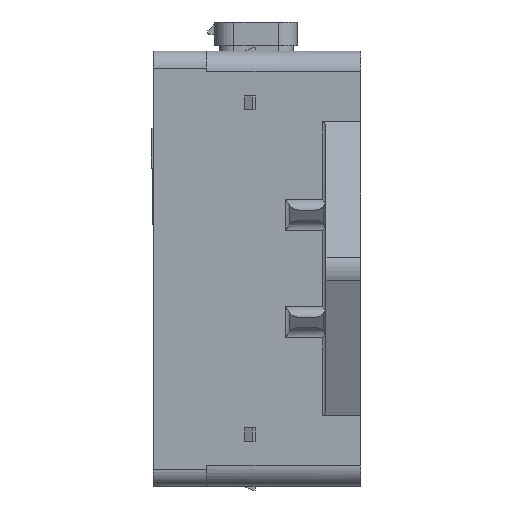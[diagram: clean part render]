
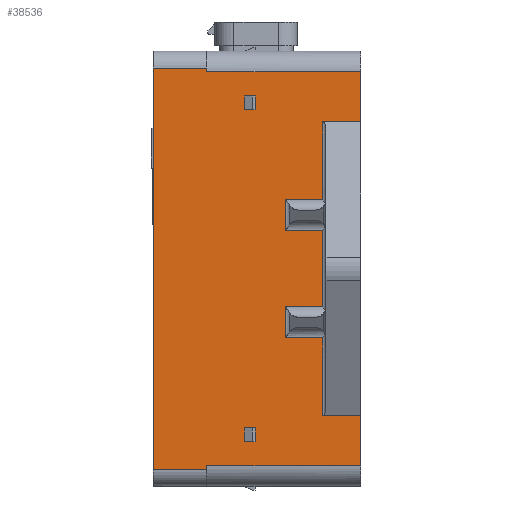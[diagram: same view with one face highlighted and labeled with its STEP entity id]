
A CAD part, left-side view. The second image highlights one B-rep face of the part: STEP entity #38536.
In plain terms, the highlighted planar face has unit normal (-1, 0, 0).
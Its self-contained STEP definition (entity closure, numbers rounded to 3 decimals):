
#86=DIRECTION('',(0.,-1.,0.));
#87=VECTOR('',#86,15.5);
#88=CARTESIAN_POINT('',(-97.,49.6,-58.001));
#89=LINE('',#88,#87);
#100=DIRECTION('',(0.,1.,0.));
#101=VECTOR('',#100,44.5);
#102=CARTESIAN_POINT('',(-97.,-10.4,-57.006));
#103=LINE('',#102,#101);
#104=DIRECTION('',(0.,0.,-1.));
#105=VECTOR('',#104,1.);
#106=CARTESIAN_POINT('',(-97.,34.1,-57.001));
#107=LINE('',#106,#105);
#108=DIRECTION('',(0.,0.,1.));
#109=VECTOR('',#108,116.003);
#110=CARTESIAN_POINT('',(-97.,49.6,-58.001));
#111=LINE('',#110,#109);
#112=DIRECTION('',(0.,0.,-1.));
#113=VECTOR('',#112,1.);
#114=CARTESIAN_POINT('',(-97.,34.1,58.001));
#115=LINE('',#114,#113);
#116=DIRECTION('',(0.,-1.,0.));
#117=VECTOR('',#116,44.5);
#118=CARTESIAN_POINT('',(-97.,34.1,57.001));
#119=LINE('',#118,#117);
#120=DIRECTION('',(0.,0.,-1.));
#121=VECTOR('',#120,4.);
#122=CARTESIAN_POINT('',(-97.,23.1,-46.));
#123=LINE('',#122,#121);
#124=DIRECTION('',(0.,-1.,0.));
#125=VECTOR('',#124,3.);
#126=CARTESIAN_POINT('',(-97.,23.1,-50.));
#127=LINE('',#126,#125);
#128=DIRECTION('',(0.,0.,1.));
#129=VECTOR('',#128,4.);
#130=CARTESIAN_POINT('',(-97.,20.1,-50.));
#131=LINE('',#130,#129);
#132=DIRECTION('',(0.,1.,0.));
#133=VECTOR('',#132,3.);
#134=CARTESIAN_POINT('',(-97.,20.1,-46.));
#135=LINE('',#134,#133);
#136=DIRECTION('',(0.,0.,-1.));
#137=VECTOR('',#136,4.);
#138=CARTESIAN_POINT('',(-97.,23.1,50.));
#139=LINE('',#138,#137);
#140=DIRECTION('',(0.,-1.,0.));
#141=VECTOR('',#140,3.);
#142=CARTESIAN_POINT('',(-97.,23.1,46.));
#143=LINE('',#142,#141);
#144=DIRECTION('',(0.,0.,1.));
#145=VECTOR('',#144,4.);
#146=CARTESIAN_POINT('',(-97.,20.1,46.));
#147=LINE('',#146,#145);
#148=DIRECTION('',(0.,1.,0.));
#149=VECTOR('',#148,3.);
#150=CARTESIAN_POINT('',(-97.,20.1,50.));
#151=LINE('',#150,#149);
#152=DIRECTION('',(0.,1.,0.));
#153=VECTOR('',#152,15.5);
#154=CARTESIAN_POINT('',(-97.,34.1,58.001));
#155=LINE('',#154,#153);
#572=DIRECTION('',(0.,0.,1.));
#573=VECTOR('',#572,14.506);
#574=CARTESIAN_POINT('',(-97.,-10.4,42.5));
#575=LINE('',#574,#573);
#652=CARTESIAN_POINT('',(-97.,-10.4,-57.006));
#654=DIRECTION('',(0.,0.,1.));
#655=VECTOR('',#654,14.506);
#656=CARTESIAN_POINT('',(-97.,-10.4,-57.006));
#657=LINE('',#656,#655);
#1198=DIRECTION('',(0.,1.,0.));
#1199=VECTOR('',#1198,11.);
#1200=CARTESIAN_POINT('',(-97.,-10.4,-42.5));
#1201=LINE('',#1200,#1199);
#1206=DIRECTION('',(0.,0.,-1.));
#1207=VECTOR('',#1206,22.5);
#1208=CARTESIAN_POINT('',(-97.,0.6,
-20.));
#1209=LINE('',#1208,#1207);
#1226=DIRECTION('',(0.,-1.,0.));
#1227=VECTOR('',#1226,10.828);
#1228=CARTESIAN_POINT('',(-97.,11.428,-20.));
#1229=LINE('',#1228,#1227);
#1230=CARTESIAN_POINT('',(-97.,11.428,-20.));
#1301=DIRECTION('',(0.,0.,-1.));
#1302=VECTOR('',#1301,9.);
#1303=CARTESIAN_POINT('',(-97.,11.428,-11.));
#1304=LINE('',#1303,#1302);
#1305=CARTESIAN_POINT('',(-97.,11.428,-11.));
#1329=DIRECTION('',(0.,1.,0.));
#1330=VECTOR('',#1329,10.828);
#1331=CARTESIAN_POINT('',(-97.,0.6,
-11.));
#1332=LINE('',#1331,#1330);
#1340=DIRECTION('',(0.,0.,-1.));
#1341=VECTOR('',#1340,22.);
#1342=CARTESIAN_POINT('',(-97.,0.6,
11.));
#1343=LINE('',#1342,#1341);
#1362=DIRECTION('',(0.,-1.,0.));
#1363=VECTOR('',#1362,10.828);
#1364=CARTESIAN_POINT('',(-97.,11.428,11.));
#1365=LINE('',#1364,#1363);
#1366=CARTESIAN_POINT('',(-97.,11.428,11.));
#1430=DIRECTION('',(0.,0.,-1.));
#1431=VECTOR('',#1430,9.);
#1432=CARTESIAN_POINT('',(-97.,11.428,20.));
#1433=LINE('',#1432,#1431);
#1434=CARTESIAN_POINT('',(-97.,11.428,20.));
#1458=DIRECTION('',(0.,1.,0.));
#1459=VECTOR('',#1458,10.828);
#1460=CARTESIAN_POINT('',(-97.,0.6,
20.));
#1461=LINE('',#1460,#1459);
#1477=DIRECTION('',(0.,0.,-1.));
#1478=VECTOR('',#1477,22.5);
#1479=CARTESIAN_POINT('',(-97.,0.6,
42.5));
#1480=LINE('',#1479,#1478);
#1504=DIRECTION('',(0.,-1.,0.));
#1505=VECTOR('',#1504,11.);
#1506=CARTESIAN_POINT('',(-97.,0.6,
42.5));
#1507=LINE('',#1506,#1505);
#33189=VERTEX_POINT('',#1230);
#33191=VERTEX_POINT('',#1305);
#33197=VERTEX_POINT('',#1366);
#33199=VERTEX_POINT('',#1434);
#35689=CARTESIAN_POINT('',(-97.,34.1,58.004));
#35691=VERTEX_POINT('',#35689);
#35695=CARTESIAN_POINT('',(-97.,49.6,58.001));
#35696=VERTEX_POINT('',#35695);
#35698=CARTESIAN_POINT('',(-97.,34.1,57.004));
#35700=VERTEX_POINT('',#35698);
#35701=CARTESIAN_POINT('',(-97.,34.1,-57.004));
#35703=VERTEX_POINT('',#35701);
#35705=CARTESIAN_POINT('',(-97.,34.1,-58.001));
#35706=VERTEX_POINT('',#35705);
#35717=CARTESIAN_POINT('',(-97.,49.6,-58.001));
#35718=VERTEX_POINT('',#35717);
#38045=CARTESIAN_POINT('',(-97.,23.1,46.));
#38046=VERTEX_POINT('',#38045);
#38047=CARTESIAN_POINT('',(-97.,20.1,46.));
#38048=VERTEX_POINT('',#38047);
#38049=CARTESIAN_POINT('',(-97.,20.1,50.));
#38050=VERTEX_POINT('',#38049);
#38053=CARTESIAN_POINT('',(-97.,23.1,50.));
#38054=VERTEX_POINT('',#38053);
#38057=CARTESIAN_POINT('',(-97.,20.1,-50.));
#38058=CARTESIAN_POINT('',(-97.,20.1,-46.));
#38059=VERTEX_POINT('',#38057);
#38060=VERTEX_POINT('',#38058);
#38065=CARTESIAN_POINT('',(-97.,23.1,-46.));
#38066=VERTEX_POINT('',#38065);
#38071=CARTESIAN_POINT('',(-97.,23.1,-50.));
#38072=VERTEX_POINT('',#38071);
#38073=CARTESIAN_POINT('',(-97.,0.6,
-20.));
#38074=VERTEX_POINT('',#38073);
#38083=CARTESIAN_POINT('',(-97.,0.6,
-11.));
#38084=VERTEX_POINT('',#38083);
#38085=CARTESIAN_POINT('',(-97.,0.6,
11.));
#38086=VERTEX_POINT('',#38085);
#38093=CARTESIAN_POINT('',(-97.,0.6,
20.));
#38094=VERTEX_POINT('',#38093);
#38096=CARTESIAN_POINT('',(-97.,0.6,
42.5));
#38097=VERTEX_POINT('',#38096);
#38111=CARTESIAN_POINT('',(-97.,0.6,
-42.5));
#38112=VERTEX_POINT('',#38111);
#38239=VERTEX_POINT('',#652);
#38293=CARTESIAN_POINT('',(-97.,-10.4,57.006));
#38294=VERTEX_POINT('',#38293);
#38380=CARTESIAN_POINT('',(-97.,-10.4,-42.5));
#38381=VERTEX_POINT('',#38380);
#38382=CARTESIAN_POINT('',(-97.,-10.4,42.5));
#38383=VERTEX_POINT('',#38382);
#38473=CARTESIAN_POINT('',(-97.,19.6,0.));
#38474=DIRECTION('',(1.,0.,0.));
#38475=DIRECTION('',(0.,0.,1.));
#38476=AXIS2_PLACEMENT_3D('',#38473,#38474,#38475);
#38477=PLANE('',#38476);
#38478=ORIENTED_EDGE('',*,*,#38464,.T.);
#38479=ORIENTED_EDGE('',*,*,#38453,.T.);
#38480=ORIENTED_EDGE('',*,*,#38438,.F.);
#38481=ORIENTED_EDGE('',*,*,#38405,.T.);
#38483=ORIENTED_EDGE('',*,*,#38482,.F.);
#38485=ORIENTED_EDGE('',*,*,#38484,.T.);
#38487=ORIENTED_EDGE('',*,*,#38486,.T.);
#38489=ORIENTED_EDGE('',*,*,#38488,.F.);
#38491=ORIENTED_EDGE('',*,*,#38490,.F.);
#38493=ORIENTED_EDGE('',*,*,#38492,.T.);
#38495=ORIENTED_EDGE('',*,*,#38494,.T.);
#38497=ORIENTED_EDGE('',*,*,#38496,.T.);
#38499=ORIENTED_EDGE('',*,*,#38498,.T.);
#38501=ORIENTED_EDGE('',*,*,#38500,.T.);
#38503=ORIENTED_EDGE('',*,*,#38502,.T.);
#38505=ORIENTED_EDGE('',*,*,#38504,.T.);
#38507=ORIENTED_EDGE('',*,*,#38506,.T.);
#38509=ORIENTED_EDGE('',*,*,#38508,.T.);
#38511=ORIENTED_EDGE('',*,*,#38510,.F.);
#38513=ORIENTED_EDGE('',*,*,#38512,.F.);
#38514=EDGE_LOOP('',(#38478,#38479,#38480,#38481,#38483,#38485,#38487,#38489,
#38491,#38493,#38495,#38497,#38499,#38501,#38503,#38505,#38507,#38509,#38511,
#38513));
#38515=FACE_OUTER_BOUND('',#38514,.F.);
#38517=ORIENTED_EDGE('',*,*,#38516,.T.);
#38519=ORIENTED_EDGE('',*,*,#38518,.T.);
#38521=ORIENTED_EDGE('',*,*,#38520,.T.);
#38523=ORIENTED_EDGE('',*,*,#38522,.T.);
#38524=EDGE_LOOP('',(#38517,#38519,#38521,#38523));
#38525=FACE_BOUND('',#38524,.F.);
#38527=ORIENTED_EDGE('',*,*,#38526,.T.);
#38529=ORIENTED_EDGE('',*,*,#38528,.T.);
#38531=ORIENTED_EDGE('',*,*,#38530,.T.);
#38533=ORIENTED_EDGE('',*,*,#38532,.T.);
#38534=EDGE_LOOP('',(#38527,#38529,#38531,#38533));
#38535=FACE_BOUND('',#38534,.F.);
#38536=ADVANCED_FACE('',(#38515,#38525,#38535),#38477,.F.);
#38405=EDGE_CURVE('',#35718,#35696,#111,.T.);
#38438=EDGE_CURVE('',#35718,#35706,#89,.T.);
#38453=EDGE_CURVE('',#35703,#35706,#107,.T.);
#38464=EDGE_CURVE('',#38239,#35703,#103,.T.);
#38482=EDGE_CURVE('',#35691,#35696,#155,.T.);
#38484=EDGE_CURVE('',#35691,#35700,#115,.T.);
#38486=EDGE_CURVE('',#35700,#38294,#119,.T.);
#38488=EDGE_CURVE('',#38383,#38294,#575,.T.);
#38490=EDGE_CURVE('',#38097,#38383,#1507,.T.);
#38492=EDGE_CURVE('',#38097,#38094,#1480,.T.);
#38494=EDGE_CURVE('',#38094,#33199,#1461,.T.);
#38496=EDGE_CURVE('',#33199,#33197,#1433,.T.);
#38498=EDGE_CURVE('',#33197,#38086,#1365,.T.);
#38500=EDGE_CURVE('',#38086,#38084,#1343,.T.);
#38502=EDGE_CURVE('',#38084,#33191,#1332,.T.);
#38504=EDGE_CURVE('',#33191,#33189,#1304,.T.);
#38506=EDGE_CURVE('',#33189,#38074,#1229,.T.);
#38508=EDGE_CURVE('',#38074,#38112,#1209,.T.);
#38510=EDGE_CURVE('',#38381,#38112,#1201,.T.);
#38512=EDGE_CURVE('',#38239,#38381,#657,.T.);
#38516=EDGE_CURVE('',#38066,#38072,#123,.T.);
#38518=EDGE_CURVE('',#38072,#38059,#127,.T.);
#38520=EDGE_CURVE('',#38059,#38060,#131,.T.);
#38522=EDGE_CURVE('',#38060,#38066,#135,.T.);
#38526=EDGE_CURVE('',#38054,#38046,#139,.T.);
#38528=EDGE_CURVE('',#38046,#38048,#143,.T.);
#38530=EDGE_CURVE('',#38048,#38050,#147,.T.);
#38532=EDGE_CURVE('',#38050,#38054,#151,.T.);
